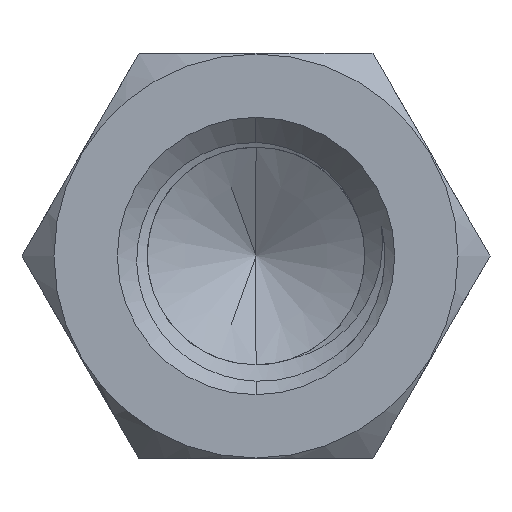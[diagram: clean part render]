
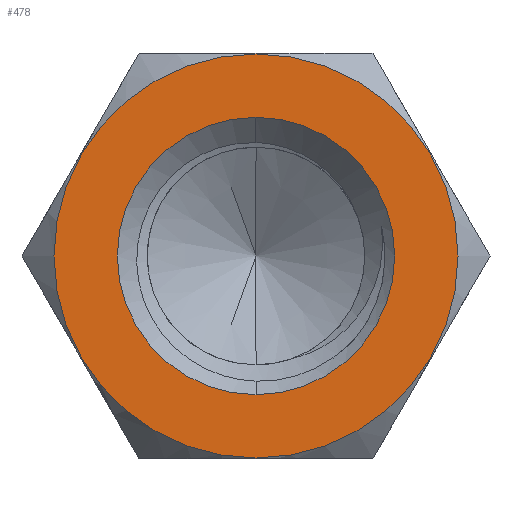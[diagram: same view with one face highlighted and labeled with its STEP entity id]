
A CAD part, front view. The second image highlights one B-rep face of the part: STEP entity #478.
In plain terms, the highlighted planar face has unit normal (0, -1, 0).
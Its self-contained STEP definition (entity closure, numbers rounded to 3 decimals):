
#77 = CIRCLE ( 'NONE', #1940, 9.47 ) ;
#78 = ORIENTED_EDGE ( 'NONE', *, *, #1753, .T. ) ;
#91 = CARTESIAN_POINT ( 'NONE',  ( 0., 0., 0. ) ) ;
#137 = EDGE_LOOP ( 'NONE', ( #2159, #1283 ) ) ;
#162 = DIRECTION ( 'NONE',  ( 0., 0., 1. ) ) ;
#177 = FACE_OUTER_BOUND ( 'NONE', #1234, .T. ) ;
#228 = PLANE ( 'NONE',  #800 ) ;
#298 = AXIS2_PLACEMENT_3D ( 'NONE', #1139, #2700, #162 ) ;
#478 = ADVANCED_FACE ( 'NONE', ( #746, #177 ), #228, .F. ) ;
#730 = DIRECTION ( 'NONE',  ( 0., 1., 0. ) ) ;
#746 = FACE_BOUND ( 'NONE', #137, .T. ) ;
#800 = AXIS2_PLACEMENT_3D ( 'NONE', #1941, #730, #2765 ) ;
#802 = VERTEX_POINT ( 'NONE', #1592 ) ;
#807 = ORIENTED_EDGE ( 'NONE', *, *, #2054, .T. ) ;
#864 = DIRECTION ( 'NONE',  ( 0., 0., -1. ) ) ;
#880 = CIRCLE ( 'NONE', #1999, 9.47 ) ;
#960 = VERTEX_POINT ( 'NONE', #1912 ) ;
#1021 = EDGE_CURVE ( 'NONE', #960, #802, #2589, .T. ) ;
#1077 = EDGE_CURVE ( 'NONE', #802, #960, #1836, .T. ) ;
#1139 = CARTESIAN_POINT ( 'NONE',  ( 0., 0., 0. ) ) ;
#1234 = EDGE_LOOP ( 'NONE', ( #78, #807 ) ) ;
#1282 = DIRECTION ( 'NONE',  ( 0., 0., -1. ) ) ;
#1283 = ORIENTED_EDGE ( 'NONE', *, *, #1077, .T. ) ;
#1439 = CARTESIAN_POINT ( 'NONE',  ( 0., 0., 0. ) ) ;
#1592 = CARTESIAN_POINT ( 'NONE',  ( 0., 0., 6.5 ) ) ;
#1738 = CARTESIAN_POINT ( 'NONE',  ( 0., 0., 0. ) ) ;
#1753 = EDGE_CURVE ( 'NONE', #1771, #2024, #880, .T. ) ;
#1771 = VERTEX_POINT ( 'NONE', #2194 ) ;
#1802 = DIRECTION ( 'NONE',  ( 0., -1., 0. ) ) ;
#1836 = CIRCLE ( 'NONE', #2157, 6.5 ) ;
#1863 = CARTESIAN_POINT ( 'NONE',  ( 0., 0., -9.47 ) ) ;
#1912 = CARTESIAN_POINT ( 'NONE',  ( 0., 0., -6.5 ) ) ;
#1940 = AXIS2_PLACEMENT_3D ( 'NONE', #91, #2132, #864 ) ;
#1941 = CARTESIAN_POINT ( 'NONE',  ( 0., 0., 0. ) ) ;
#1999 = AXIS2_PLACEMENT_3D ( 'NONE', #1738, #1802, #1282 ) ;
#2024 = VERTEX_POINT ( 'NONE', #1863 ) ;
#2054 = EDGE_CURVE ( 'NONE', #2024, #1771, #77, .T. ) ;
#2132 = DIRECTION ( 'NONE',  ( 0., -1., 0. ) ) ;
#2157 = AXIS2_PLACEMENT_3D ( 'NONE', #1439, #3197, #2951 ) ;
#2159 = ORIENTED_EDGE ( 'NONE', *, *, #1021, .T. ) ;
#2194 = CARTESIAN_POINT ( 'NONE',  ( 0., 0., 9.47 ) ) ;
#2589 = CIRCLE ( 'NONE', #298, 6.5 ) ;
#2700 = DIRECTION ( 'NONE',  ( 0., 1., 0. ) ) ;
#2765 = DIRECTION ( 'NONE',  ( 0., 0., 1. ) ) ;
#2951 = DIRECTION ( 'NONE',  ( 0., 0., 1. ) ) ;
#3197 = DIRECTION ( 'NONE',  ( 0., 1., 0. ) ) ;
